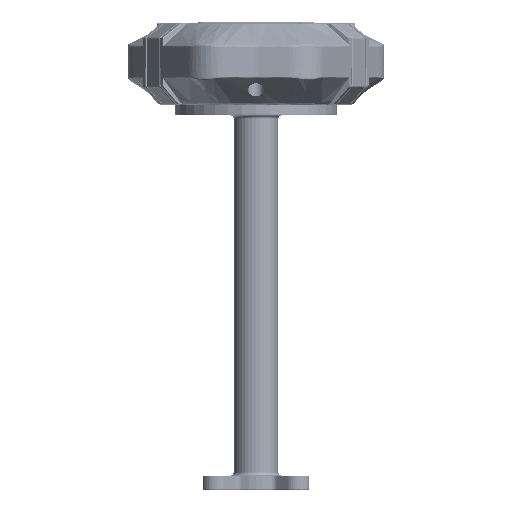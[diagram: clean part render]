
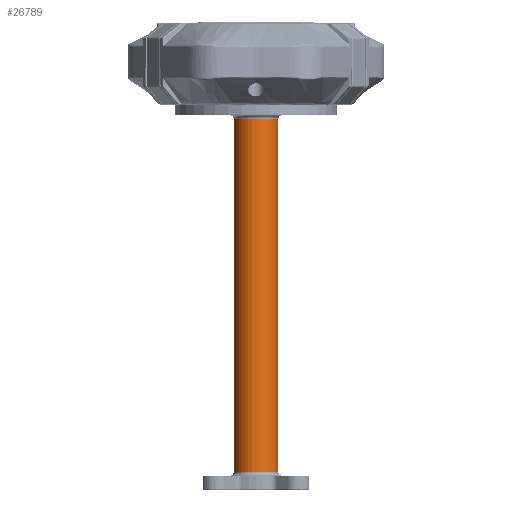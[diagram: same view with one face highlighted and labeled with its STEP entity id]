
A CAD part, front view. The second image highlights one B-rep face of the part: STEP entity #26789.
In plain terms, the highlighted cylindrical face has radius 6.2 mm (diameter 12.4 mm), a partial arc.
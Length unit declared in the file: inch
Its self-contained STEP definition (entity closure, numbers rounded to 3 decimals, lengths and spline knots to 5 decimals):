
#7862 = CARTESIAN_POINT ( 'NONE',  ( 1.32693, 1.02838, -4.40551 ) ) ;
#16047 = LINE ( 'NONE', #265428, #47065 ) ;
#26789 = ADVANCED_FACE ( 'NONE', ( #149550 ), #110348, .T. ) ;
#37024 = VERTEX_POINT ( 'NONE', #246271 ) ;
#41867 = EDGE_CURVE ( 'NONE', #56447, #179465, #173509, .T. ) ;
#47065 = VECTOR ( 'NONE', #80741, 39.37008 ) ;
#48524 = CARTESIAN_POINT ( 'NONE',  ( 1.32693, 1.02838, -4.36614 ) ) ;
#56447 = VERTEX_POINT ( 'NONE', #147498 ) ;
#59735 = EDGE_LOOP ( 'NONE', ( #125567, #194649, #219183, #156215 ) ) ;
#62459 = DIRECTION ( 'NONE',  ( -1., 0., 0. ) ) ;
#66794 = CARTESIAN_POINT ( 'NONE',  ( 1.08283, 1.02838, -0.50787 ) ) ;
#80741 = DIRECTION ( 'NONE',  ( 0., 0., 1. ) ) ;
#83120 = DIRECTION ( 'NONE',  ( 0., 0., -1. ) ) ;
#110348 = CYLINDRICAL_SURFACE ( 'NONE', #233691, 0.24409 ) ;
#122014 = CIRCLE ( 'NONE', #139426, 0.24409 ) ;
#122473 = EDGE_CURVE ( 'NONE', #56447, #171521, #186036, .T. ) ;
#125567 = ORIENTED_EDGE ( 'NONE', *, *, #41867, .F. ) ;
#129065 = CARTESIAN_POINT ( 'NONE',  ( 1.08283, 1.02838, -4.40551 ) ) ;
#139426 = AXIS2_PLACEMENT_3D ( 'NONE', #185591, #83120, #165401 ) ;
#145911 = EDGE_CURVE ( 'NONE', #37024, #179465, #122014, .T. ) ;
#147498 = CARTESIAN_POINT ( 'NONE',  ( 1.08283, 1.02838, -4.36614 ) ) ;
#149550 = FACE_OUTER_BOUND ( 'NONE', #59735, .T. ) ;
#156215 = ORIENTED_EDGE ( 'NONE', *, *, #145911, .T. ) ;
#165401 = DIRECTION ( 'NONE',  ( -1., 0., 0. ) ) ;
#171521 = VERTEX_POINT ( 'NONE', #220579 ) ;
#173509 = LINE ( 'NONE', #129065, #200687 ) ;
#178221 = EDGE_CURVE ( 'NONE', #171521, #37024, #16047, .T. ) ;
#179465 = VERTEX_POINT ( 'NONE', #66794 ) ;
#185591 = CARTESIAN_POINT ( 'NONE',  ( 1.32693, 1.02838, -0.50787 ) ) ;
#186036 = CIRCLE ( 'NONE', #216211, 0.24409 ) ;
#191272 = DIRECTION ( 'NONE',  ( 0., 0., 1. ) ) ;
#192390 = DIRECTION ( 'NONE',  ( 0., 0., 1. ) ) ;
#194649 = ORIENTED_EDGE ( 'NONE', *, *, #122473, .T. ) ;
#200687 = VECTOR ( 'NONE', #192390, 39.37008 ) ;
#208786 = DIRECTION ( 'NONE',  ( 1., 0., 0. ) ) ;
#216211 = AXIS2_PLACEMENT_3D ( 'NONE', #48524, #247153, #62459 ) ;
#219183 = ORIENTED_EDGE ( 'NONE', *, *, #178221, .T. ) ;
#220579 = CARTESIAN_POINT ( 'NONE',  ( 1.57102, 1.02838, -4.36614 ) ) ;
#233691 = AXIS2_PLACEMENT_3D ( 'NONE', #7862, #191272, #208786 ) ;
#246271 = CARTESIAN_POINT ( 'NONE',  ( 1.57102, 1.02838, -0.50787 ) ) ;
#247153 = DIRECTION ( 'NONE',  ( 0., 0., 1. ) ) ;
#265428 = CARTESIAN_POINT ( 'NONE',  ( 1.57102, 1.02838, -4.40551 ) ) ;
